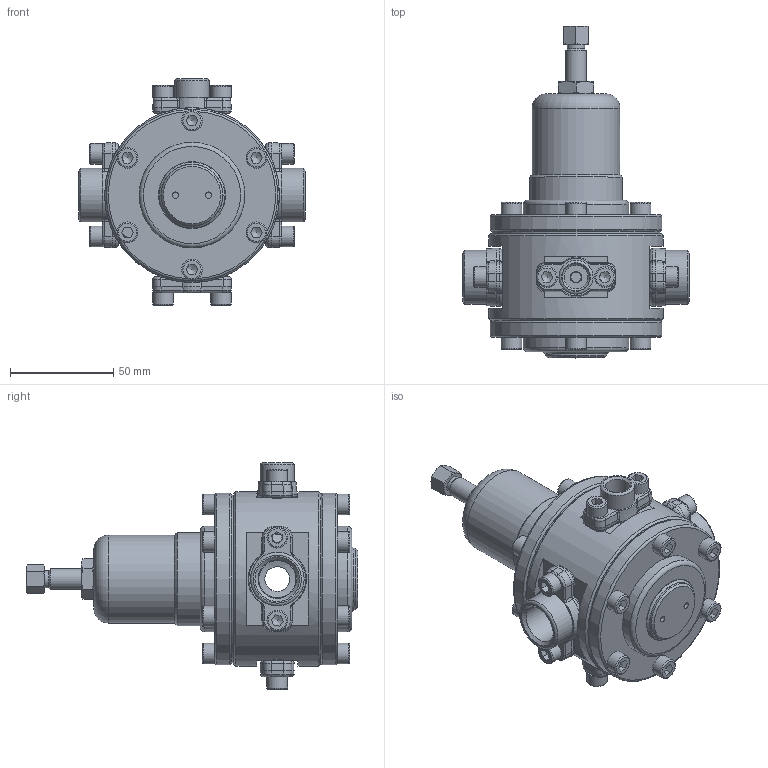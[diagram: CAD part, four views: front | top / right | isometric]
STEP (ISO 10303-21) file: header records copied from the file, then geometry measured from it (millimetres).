
FILE_DESCRIPTION(/* description */ ('312R2'),/* implementation_level */ '2;1');
FILE_NAME(/* name */ 'C:\Users\MLazzarato\Desktop\DISEGNI THOMAS\312R2 DIAPHRAGM.stp',/* time_stamp */ '2020-11-27T09:09:30+01:00',/* author */ ('MLazzarato'),/* organization */ (''),/* preprocessor_version */ 'ST-DEVELOPER v18.1',/* originating_system */ 'Autodesk Inventor 2021',/* authorisation */ '');
FILE_SCHEMA (('AUTOMOTIVE_DESIGN { 1 0 10303 214 3 1 1 }'));
Length unit declared in the file: millimetre
Products named in the file (53): C81062; P43027; C22014; P22069; P42021; OR 08022; P41119; P44020; P37109; P37110; P34225; P20648; P25028; P32036; P24027; P31009; 0DC10410; 0DC10410_1; 0DC10410_2; 0DC10410_3; 0DC10410_4; 0DC10410_5; 0DC10410_6; 0DC10410_7; 0DC10410_8; 0DC10410_9; 0DC10410_10; 0DC10410_11; OR 07075; OR 16099; OR 08022_1; OR 07103; 0DM10400; P24011; P23034; P23040; 0DC10410_12; 0DC10410_13; 0DC10410_14; 0DC10410_15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
Assembly tree (53 placements, depth 3):
  C81062
    P43027
    C22014
      P22069
      P42021
      OR 08022
    P41119
    P44020
    P37109
    P37110
    P34225
    P20648
    P25028
    P32036
    P24027
    P31009
    0DC10410
    0DC10410_1
    0DC10410_2
    0DC10410_3
    0DC10410_4
    0DC10410_5
    0DC10410_6
    0DC10410_7
    0DC10410_8
    0DC10410_9
    0DC10410_10
    0DC10410_11
    OR 07075
    OR 16099
    OR 08022_1
    OR 07103
    0DM10400
    P24011
    P23034
    P23040
    0DC10410_12
    0DC10410_13
    0DC10410_14
    0DC10410_15
    0DC10410_16
    0DC10410_17
    0DC10410_18
    0DC10410_19
    P37129
    OR 07021  x2
    OR 07054
    OR 07054_1
    0DN11400
    P37131
    P37128
    P37128_1
    P43123
Bounding box: 109.3 x 160.47 x 109.5 mm (x, y, z)
Volume: 159149.7 mm3; surface area: 108395.2 mm2
Topology: 37 solids, 37 shells, 871 faces, 2396 edges, 1603 vertices
Faces by surface type: plane 301, cylinder 247, cone 139, torus 124, bspline 60
Full cylindrical faces by diameter (mm): 3 x2, 4.134 x1, 4.917 x8, 5.1 x2, 5.6 x1, 6 x20, 6.5 x20, 7.7 x2, 8.3 x1, 8.917 x2, 10 x21, 11.2 x2, 11.445 x1, 12 x1, 16.5 x1, 18 x1, 18.63 x2, 20.3 x2, 23.8 x2, 26 x3, 29.8 x1, 30.376 x1, 32 x1, 40 x1, 41.9 x1, 42 x1, 42.5 x1, 43.376 x1, 45 x2, 51 x2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
Entity records: 34025 total; most frequent: CARTESIAN_POINT 9886, DIRECTION 4803, ORIENTED_EDGE 4724, EDGE_CURVE 2362, AXIS2_PLACEMENT_3D 2032, VERTEX_POINT 1602, CIRCLE 1084, EDGE_LOOP 1004
